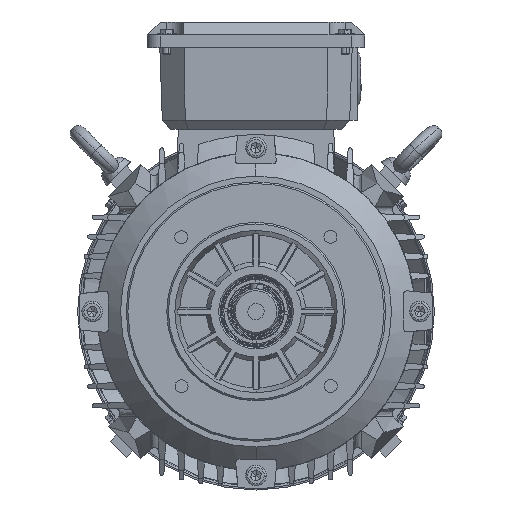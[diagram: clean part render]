
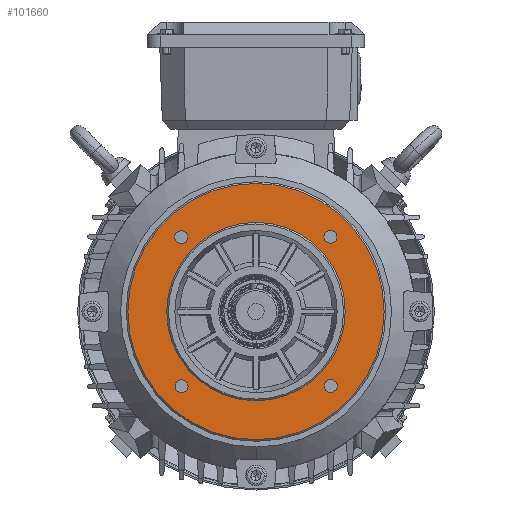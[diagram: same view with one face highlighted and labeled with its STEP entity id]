
A CAD part, left-side view. The second image highlights one B-rep face of the part: STEP entity #101660.
In plain terms, the highlighted planar face has unit normal (-1, 0, 0).
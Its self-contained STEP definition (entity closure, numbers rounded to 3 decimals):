
#687 = DIRECTION ( 'NONE',  ( -1., 0., 0. ) ) ;
#1854 = ORIENTED_EDGE ( 'NONE', *, *, #129900, .F. ) ;
#3700 = FACE_BOUND ( 'NONE', #38631, .T. ) ;
#6065 = CARTESIAN_POINT ( 'NONE',  ( -105.764, 3.903, -1.878 ) ) ;
#6378 = EDGE_CURVE ( 'NONE', #27898, #11794, #54346, .T. ) ;
#6453 = CIRCLE ( 'NONE', #63474, 79. ) ;
#6949 = CARTESIAN_POINT ( 'NONE',  ( -105.764, -41.99, 44.153 ) ) ;
#8380 = CARTESIAN_POINT ( 'NONE',  ( -105.764, 49.939, 48.015 ) ) ;
#9439 = ORIENTED_EDGE ( 'NONE', *, *, #127678, .T. ) ;
#9690 = ORIENTED_EDGE ( 'NONE', *, *, #33535, .F. ) ;
#11517 = DIRECTION ( 'NONE',  ( -1., 0., 0. ) ) ;
#11794 = VERTEX_POINT ( 'NONE', #59394 ) ;
#12157 = AXIS2_PLACEMENT_3D ( 'NONE', #47390, #68080, #26673 ) ;
#13344 = EDGE_LOOP ( 'NONE', ( #130815, #9439 ) ) ;
#15286 = EDGE_LOOP ( 'NONE', ( #16677, #136529 ) ) ;
#15366 = DIRECTION ( 'NONE',  ( -1., 0., 0. ) ) ;
#16677 = ORIENTED_EDGE ( 'NONE', *, *, #66670, .F. ) ;
#19042 = DIRECTION ( 'NONE',  ( 0., -0.002, -1. ) ) ;
#20239 = CARTESIAN_POINT ( 'NONE',  ( -105.764, -42.122, -43.771 ) ) ;
#25125 = VERTEX_POINT ( 'NONE', #112238 ) ;
#25189 = CIRCLE ( 'NONE', #79895, 4. ) ;
#26673 = DIRECTION ( 'NONE',  ( 0., 1., -0.002 ) ) ;
#27898 = VERTEX_POINT ( 'NONE', #130908 ) ;
#28345 = DIRECTION ( 'NONE',  ( -1., 0., 0. ) ) ;
#30442 = EDGE_CURVE ( 'NONE', #45500, #65583, #48360, .T. ) ;
#30955 = DIRECTION ( 'NONE',  ( 0., -0.002, -1. ) ) ;
#33535 = EDGE_CURVE ( 'NONE', #11794, #27898, #48943, .T. ) ;
#34321 = DIRECTION ( 'NONE',  ( 0., -1., 0.002 ) ) ;
#38631 = EDGE_LOOP ( 'NONE', ( #132083, #9690 ) ) ;
#39438 = DIRECTION ( 'NONE',  ( 0., 1., -0.002 ) ) ;
#40740 = AXIS2_PLACEMENT_3D ( 'NONE', #105809, #129360, #39438 ) ;
#41221 = CIRCLE ( 'NONE', #89050, 55. ) ;
#41650 = CARTESIAN_POINT ( 'NONE',  ( -105.764, 3.903, -1.878 ) ) ;
#42378 = CARTESIAN_POINT ( 'NONE',  ( -105.764, 49.795, -47.909 ) ) ;
#42715 = CARTESIAN_POINT ( 'NONE',  ( -105.764, 49.795, -47.909 ) ) ;
#43936 = EDGE_CURVE ( 'NONE', #129018, #116826, #25189, .T. ) ;
#44405 = DIRECTION ( 'NONE',  ( 1., 0., 0. ) ) ;
#45333 = CARTESIAN_POINT ( 'NONE',  ( -105.764, -42.134, -51.771 ) ) ;
#45500 = VERTEX_POINT ( 'NONE', #61726 ) ;
#46379 = CIRCLE ( 'NONE', #64586, 4. ) ;
#46735 = AXIS2_PLACEMENT_3D ( 'NONE', #42715, #66933, #54142 ) ;
#47047 = EDGE_CURVE ( 'NONE', #126303, #65221, #69080, .T. ) ;
#47220 = FACE_BOUND ( 'NONE', #70912, .T. ) ;
#47390 = CARTESIAN_POINT ( 'NONE',  ( -105.764, -42.128, -47.771 ) ) ;
#48360 = CIRCLE ( 'NONE', #130403, 79. ) ;
#48887 = DIRECTION ( 'NONE',  ( 0., 0.002, 1. ) ) ;
#48943 = CIRCLE ( 'NONE', #46735, 4. ) ;
#50353 = CIRCLE ( 'NONE', #127924, 4. ) ;
#53299 = AXIS2_PLACEMENT_3D ( 'NONE', #6065, #15366, #48887 ) ;
#54142 = DIRECTION ( 'NONE',  ( 0., 0.002, 1. ) ) ;
#54346 = CIRCLE ( 'NONE', #79371, 4. ) ;
#55309 = ORIENTED_EDGE ( 'NONE', *, *, #108858, .F. ) ;
#56446 = CARTESIAN_POINT ( 'NONE',  ( -105.764, 4.021, 77.122 ) ) ;
#57662 = CARTESIAN_POINT ( 'NONE',  ( -105.764, 49.933, 44.015 ) ) ;
#59394 = CARTESIAN_POINT ( 'NONE',  ( -105.764, 49.789, -51.909 ) ) ;
#59896 = VERTEX_POINT ( 'NONE', #8380 ) ;
#61726 = CARTESIAN_POINT ( 'NONE',  ( -105.764, 3.784, -80.878 ) ) ;
#63474 = AXIS2_PLACEMENT_3D ( 'NONE', #41650, #140188, #30955 ) ;
#64586 = AXIS2_PLACEMENT_3D ( 'NONE', #57662, #86989, #111223 ) ;
#65221 = VERTEX_POINT ( 'NONE', #20239 ) ;
#65583 = VERTEX_POINT ( 'NONE', #56446 ) ;
#65892 = DIRECTION ( 'NONE',  ( -1., 0., 0. ) ) ;
#66670 = EDGE_CURVE ( 'NONE', #59896, #25125, #50353, .T. ) ;
#66933 = DIRECTION ( 'NONE',  ( -1., 0., 0. ) ) ;
#68080 = DIRECTION ( 'NONE',  ( -1., 0., 0. ) ) ;
#68587 = PLANE ( 'NONE',  #98200 ) ;
#69080 = CIRCLE ( 'NONE', #12157, 4. ) ;
#70912 = EDGE_LOOP ( 'NONE', ( #113117, #126169 ) ) ;
#71421 = EDGE_CURVE ( 'NONE', #25125, #59896, #46379, .T. ) ;
#71677 = EDGE_CURVE ( 'NONE', #129197, #137428, #110361, .T. ) ;
#74868 = CIRCLE ( 'NONE', #40740, 4. ) ;
#75903 = DIRECTION ( 'NONE',  ( 0., 0.002, 1. ) ) ;
#77227 = FACE_OUTER_BOUND ( 'NONE', #13344, .T. ) ;
#79371 = AXIS2_PLACEMENT_3D ( 'NONE', #42378, #65892, #75903 ) ;
#79895 = AXIS2_PLACEMENT_3D ( 'NONE', #6949, #28345, #19042 ) ;
#81724 = AXIS2_PLACEMENT_3D ( 'NONE', #88601, #97189, #120728 ) ;
#82233 = ORIENTED_EDGE ( 'NONE', *, *, #47047, .F. ) ;
#82482 = CARTESIAN_POINT ( 'NONE',  ( -105.764, 3.82, -56.878 ) ) ;
#86989 = DIRECTION ( 'NONE',  ( -1., 0., 0. ) ) ;
#88601 = CARTESIAN_POINT ( 'NONE',  ( -105.764, -41.99, 44.153 ) ) ;
#89050 = AXIS2_PLACEMENT_3D ( 'NONE', #118150, #108837, #108134 ) ;
#89371 = FACE_BOUND ( 'NONE', #117550, .T. ) ;
#90065 = FACE_BOUND ( 'NONE', #99443, .T. ) ;
#97189 = DIRECTION ( 'NONE',  ( -1., 0., 0. ) ) ;
#98200 = AXIS2_PLACEMENT_3D ( 'NONE', #110072, #44405, #120801 ) ;
#99443 = EDGE_LOOP ( 'NONE', ( #1854, #82233 ) ) ;
#101336 = EDGE_CURVE ( 'NONE', #137428, #129197, #41221, .T. ) ;
#101660 = ADVANCED_FACE ( 'NONE', ( #77227, #132220, #89371, #90065, #3700, #47220 ), #68587, .F. ) ;
#105809 = CARTESIAN_POINT ( 'NONE',  ( -105.764, -42.128, -47.771 ) ) ;
#108134 = DIRECTION ( 'NONE',  ( 0., 0.002, 1. ) ) ;
#108837 = DIRECTION ( 'NONE',  ( -1., 0., 0. ) ) ;
#108858 = EDGE_CURVE ( 'NONE', #116826, #129018, #113757, .T. ) ;
#109160 = CARTESIAN_POINT ( 'NONE',  ( -105.764, 3.903, -1.878 ) ) ;
#109854 = DIRECTION ( 'NONE',  ( 0., -0.002, -1. ) ) ;
#110072 = CARTESIAN_POINT ( 'NONE',  ( -105.764, 58.902, -1.96 ) ) ;
#110361 = CIRCLE ( 'NONE', #53299, 55. ) ;
#111223 = DIRECTION ( 'NONE',  ( 0., -1., 0.002 ) ) ;
#112238 = CARTESIAN_POINT ( 'NONE',  ( -105.764, 49.927, 40.015 ) ) ;
#113117 = ORIENTED_EDGE ( 'NONE', *, *, #71677, .F. ) ;
#113757 = CIRCLE ( 'NONE', #81724, 4. ) ;
#115810 = CARTESIAN_POINT ( 'NONE',  ( -105.764, -41.984, 48.153 ) ) ;
#116826 = VERTEX_POINT ( 'NONE', #125765 ) ;
#117550 = EDGE_LOOP ( 'NONE', ( #137041, #55309 ) ) ;
#118150 = CARTESIAN_POINT ( 'NONE',  ( -105.764, 3.903, -1.878 ) ) ;
#120728 = DIRECTION ( 'NONE',  ( 0., -0.002, -1. ) ) ;
#120801 = DIRECTION ( 'NONE',  ( 0., 1., -0.002 ) ) ;
#122142 = CARTESIAN_POINT ( 'NONE',  ( -105.764, 49.933, 44.015 ) ) ;
#122761 = CARTESIAN_POINT ( 'NONE',  ( -105.764, 3.985, 53.122 ) ) ;
#125765 = CARTESIAN_POINT ( 'NONE',  ( -105.764, -41.996, 40.153 ) ) ;
#126169 = ORIENTED_EDGE ( 'NONE', *, *, #101336, .F. ) ;
#126303 = VERTEX_POINT ( 'NONE', #45333 ) ;
#127678 = EDGE_CURVE ( 'NONE', #65583, #45500, #6453, .T. ) ;
#127924 = AXIS2_PLACEMENT_3D ( 'NONE', #122142, #11517, #34321 ) ;
#129018 = VERTEX_POINT ( 'NONE', #115810 ) ;
#129197 = VERTEX_POINT ( 'NONE', #122761 ) ;
#129360 = DIRECTION ( 'NONE',  ( -1., 0., 0. ) ) ;
#129900 = EDGE_CURVE ( 'NONE', #65221, #126303, #74868, .T. ) ;
#130403 = AXIS2_PLACEMENT_3D ( 'NONE', #109160, #687, #109854 ) ;
#130815 = ORIENTED_EDGE ( 'NONE', *, *, #30442, .T. ) ;
#130908 = CARTESIAN_POINT ( 'NONE',  ( -105.764, 49.801, -43.909 ) ) ;
#132083 = ORIENTED_EDGE ( 'NONE', *, *, #6378, .F. ) ;
#132220 = FACE_BOUND ( 'NONE', #15286, .T. ) ;
#136529 = ORIENTED_EDGE ( 'NONE', *, *, #71421, .F. ) ;
#137041 = ORIENTED_EDGE ( 'NONE', *, *, #43936, .F. ) ;
#137428 = VERTEX_POINT ( 'NONE', #82482 ) ;
#140188 = DIRECTION ( 'NONE',  ( -1., 0., 0. ) ) ;
